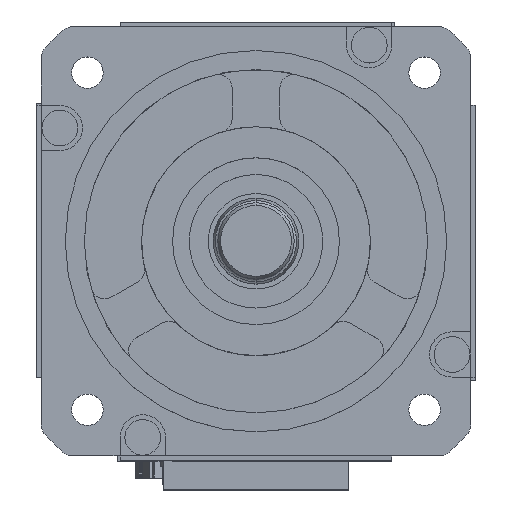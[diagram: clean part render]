
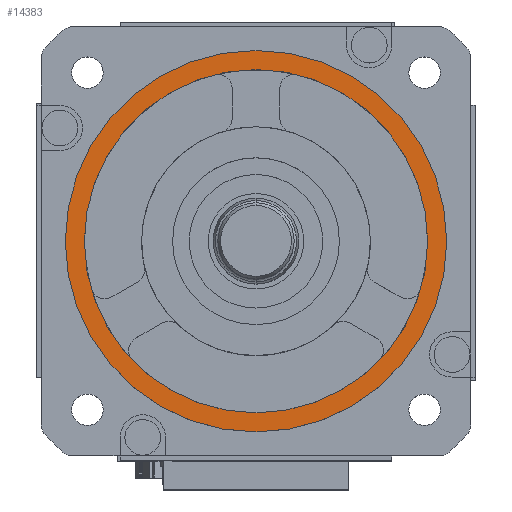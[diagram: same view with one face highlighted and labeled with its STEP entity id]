
A CAD part, top view. The second image highlights one B-rep face of the part: STEP entity #14383.
In plain terms, the highlighted planar face has unit normal (0, 0, 1).
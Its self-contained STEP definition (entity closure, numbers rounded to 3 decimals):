
#837 = DIRECTION ( 'NONE',  ( 1., 0., 0. ) ) ;
#2320 = CARTESIAN_POINT ( 'NONE',  ( -36., 0., 5. ) ) ;
#2482 = EDGE_CURVE ( 'NONE', #13304, #7562, #10014, .T. ) ;
#2602 = ORIENTED_EDGE ( 'NONE', *, *, #9775, .T. ) ;
#2936 = PLANE ( 'NONE',  #9287 ) ;
#3005 = DIRECTION ( 'NONE',  ( 0., 0., 1. ) ) ;
#3406 = AXIS2_PLACEMENT_3D ( 'NONE', #4287, #20566, #10741 ) ;
#3526 = CIRCLE ( 'NONE', #3406, 36. ) ;
#3926 = EDGE_CURVE ( 'NONE', #5656, #9895, #15484, .T. ) ;
#4287 = CARTESIAN_POINT ( 'NONE',  ( 0., 0., 5. ) ) ;
#4340 = AXIS2_PLACEMENT_3D ( 'NONE', #7208, #5533, #837 ) ;
#4785 = DIRECTION ( 'NONE',  ( 1., 0., 0. ) ) ;
#5168 = DIRECTION ( 'NONE',  ( 0., 0., 1. ) ) ;
#5533 = DIRECTION ( 'NONE',  ( 0., 0., 1. ) ) ;
#5656 = VERTEX_POINT ( 'NONE', #2320 ) ;
#6201 = CARTESIAN_POINT ( 'NONE',  ( -40., 0., 5. ) ) ;
#7208 = CARTESIAN_POINT ( 'NONE',  ( 0., 0., 5. ) ) ;
#7562 = VERTEX_POINT ( 'NONE', #6201 ) ;
#7768 = EDGE_LOOP ( 'NONE', ( #2602, #15927 ) ) ;
#9232 = DIRECTION ( 'NONE',  ( 0., 0., 1. ) ) ;
#9287 = AXIS2_PLACEMENT_3D ( 'NONE', #17423, #3005, #4785 ) ;
#9775 = EDGE_CURVE ( 'NONE', #7562, #13304, #20748, .T. ) ;
#9895 = VERTEX_POINT ( 'NONE', #11808 ) ;
#10014 = CIRCLE ( 'NONE', #4340, 40. ) ;
#10741 = DIRECTION ( 'NONE',  ( 1., 0., 0. ) ) ;
#10764 = CARTESIAN_POINT ( 'NONE',  ( 0., 0., 5. ) ) ;
#11463 = EDGE_LOOP ( 'NONE', ( #14771, #14656 ) ) ;
#11509 = FACE_OUTER_BOUND ( 'NONE', #7768, .T. ) ;
#11808 = CARTESIAN_POINT ( 'NONE',  ( 36., 0., 5. ) ) ;
#12162 = AXIS2_PLACEMENT_3D ( 'NONE', #14624, #5168, #12939 ) ;
#12939 = DIRECTION ( 'NONE',  ( 1., 0., 0. ) ) ;
#13304 = VERTEX_POINT ( 'NONE', #19571 ) ;
#14383 = ADVANCED_FACE ( 'NONE', ( #15781, #11509 ), #2936, .T. ) ;
#14624 = CARTESIAN_POINT ( 'NONE',  ( 0., 0., 5. ) ) ;
#14656 = ORIENTED_EDGE ( 'NONE', *, *, #3926, .F. ) ;
#14771 = ORIENTED_EDGE ( 'NONE', *, *, #16394, .F. ) ;
#15484 = CIRCLE ( 'NONE', #18501, 36. ) ;
#15781 = FACE_BOUND ( 'NONE', #11463, .T. ) ;
#15818 = DIRECTION ( 'NONE',  ( 1., 0., 0. ) ) ;
#15927 = ORIENTED_EDGE ( 'NONE', *, *, #2482, .T. ) ;
#16394 = EDGE_CURVE ( 'NONE', #9895, #5656, #3526, .T. ) ;
#17423 = CARTESIAN_POINT ( 'NONE',  ( 0., 0., 5. ) ) ;
#18501 = AXIS2_PLACEMENT_3D ( 'NONE', #10764, #9232, #15818 ) ;
#19571 = CARTESIAN_POINT ( 'NONE',  ( 40., 0., 5. ) ) ;
#20566 = DIRECTION ( 'NONE',  ( 0., 0., 1. ) ) ;
#20748 = CIRCLE ( 'NONE', #12162, 40. ) ;
